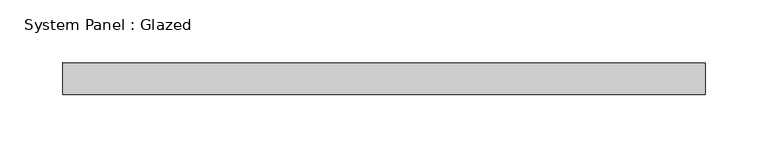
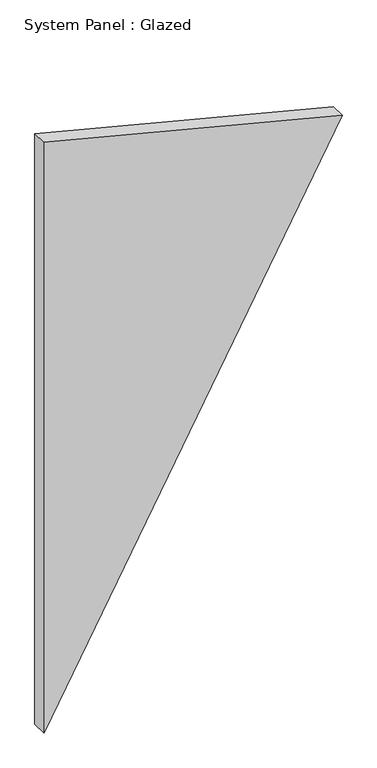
"""IFC4 building model written with IfcOpenShell, lengths in millimetres: plate geometry, System Panel : Glazed."""

from ifc_helpers import new_model, si_unit, frame, origin, place, context, project, spatial, polyline, outline, extrude, source, transform, mapped, element, save


def system_panel_glazed_1428caac(model_context):
    return source(origin(), model_context, "Body", "SweptSolid", [
        extrude(outline(polyline([(0.3099566, -254.8911558), (0.0, -253.6727269), (934.8971936, 254.8911558), (1064.5796524, -254.8862014), (0.3099566, -254.8911558)])), frame((0.0, -44.45, 0.0), z_axis=(0.0, 1.0, 0.0), x_axis=(0.0, 0.0, 1.0)), (0.0, 0.0, 1.0), 25.4),
    ])


if __name__ == "__main__":
    model = new_model("IFC4")
    model_context = context("Model", 3, world=origin())
    ifc_project = project(units=[si_unit("LENGTHUNIT", "METRE", prefix="MILLI")], contexts=[model_context])
    site = spatial("IfcSite", under=ifc_project)
    building = spatial("IfcBuilding", under=site)
    placement = place(None, origin())
    system_panel_glazed_shape = system_panel_glazed_1428caac(model_context)
    element("IfcPlate", 1, ObjectType="System Panel : Glazed", at=placement, inside=building, context=model_context, shape_type="MappedRepresentation", body=[
        mapped(system_panel_glazed_shape, transform((0.0, 0.0, 0.0), x_axis=(1.0, 0.0, 0.0), y_axis=(0.0, 1.0, 0.0), z_axis=(0.0, 0.0, 1.0))),
    ])
    save(model, "model.ifc")
